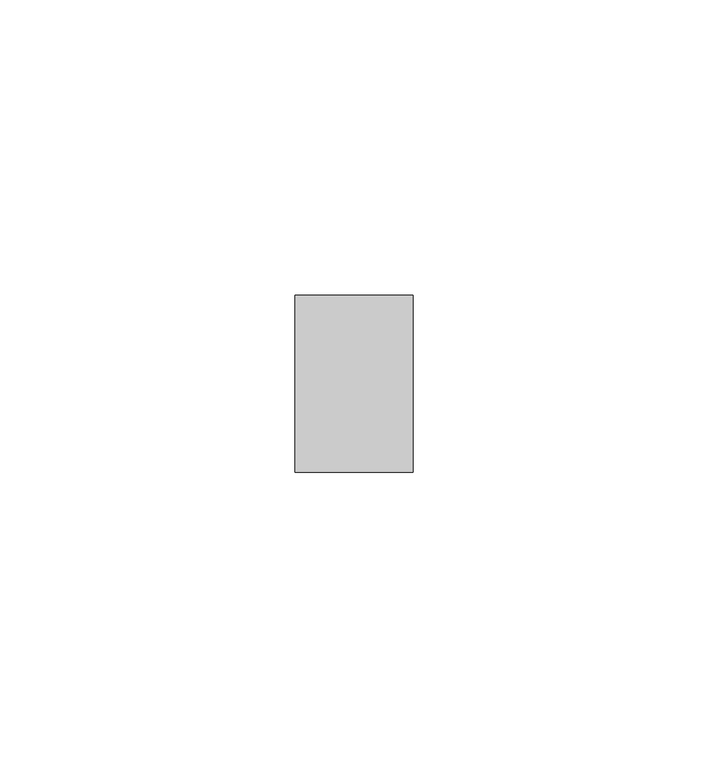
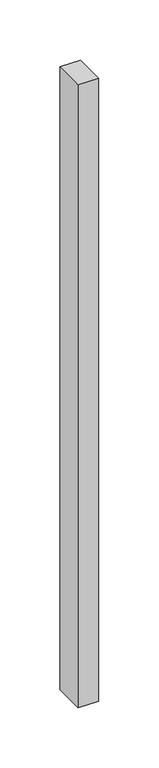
"""IFC4 building model written with IfcOpenShell, lengths in millimetres: member geometry, Прямоугольный импост : Квадрат 10 мм - Зазор между навесными плитами."""

import ifcopenshell
import ifcopenshell.guid

model = None  # the IFC model being written
_history = None  # IfcOwnerHistory: only IFC2X3 demands one
_inside = {}  # id of a spatial element -> (the spatial element, [elements in it])
_under = {}  # id of a project, library or spatial element -> (it, [spatial elements below it])
_declared = {}  # id of a project -> (the project, [libraries it declares])
_typed = {}  # id of a type object -> (the type object, [elements of that type])
_made_of = {}  # id of a material, layer set ... -> (it, [elements and type objects made of it])


def new_model(schema):
    """Start an empty IFC model of exactly this schema.

    Asked for "IFC4X3", IfcOpenShell would pick the latest addendum, in which some entities
    have other attributes; the version numbers below select the first issue.
    IFC2X3 requires an IfcOwnerHistory on every rooted entity: one is made here for all.
    """
    global model, _history
    if schema == "IFC4X3":
        model = ifcopenshell.file(schema_version=(4, 3, 0, 0))
    else:
        model = ifcopenshell.file(schema=schema)
    _inside.clear()
    _under.clear()
    _declared.clear()
    _typed.clear()
    _made_of.clear()
    _history = None
    if model.schema == "IFC2X3":
        org = make("IfcOrganization", Name="unknown")
        user = make(
            "IfcPersonAndOrganization",
            ThePerson=make("IfcPerson", FamilyName="unknown"),
            TheOrganization=org,
        )
        app = make(
            "IfcApplication",
            ApplicationDeveloper=org,
            Version="unknown",
            ApplicationFullName="unknown",
            ApplicationIdentifier="unknown",
        )
        _history = make(
            "IfcOwnerHistory",
            OwningUser=user,
            OwningApplication=app,
            ChangeAction="ADDED",
            CreationDate=0,
        )
    return model


def make(cls, **values):
    """One entity of the class cls with the attributes given. An attribute that is None is left unset."""
    return model.create_entity(
        cls, **{name: value for name, value in values.items() if value is not None}
    )


def rooted(cls, **values):
    """An entity with a GlobalId (a new one), such as an element, a storey or a relation."""
    return make(cls, GlobalId=ifcopenshell.guid.new(), OwnerHistory=_history, **values)


def si_unit(unit_type, name, prefix=None):
    """IfcSIUnit, for example si_unit("LENGTHUNIT", "METRE", prefix="MILLI")."""
    return make("IfcSIUnit", UnitType=unit_type, Prefix=prefix, Name=name)


def assignment(units):
    """IfcUnitAssignment: the units of a project."""
    return None if units is None else make("IfcUnitAssignment", Units=units)


def point(xyz):
    """IfcCartesianPoint."""
    return None if xyz is None else make("IfcCartesianPoint", Coordinates=xyz)


def direction(xyz):
    """IfcDirection."""
    return None if xyz is None else make("IfcDirection", DirectionRatios=xyz)


def frame(location, z_axis=None, x_axis=None):
    """IfcAxis2Placement3D, a coordinate frame: its origin and axes. An axis left out is left unset."""
    return make(
        "IfcAxis2Placement3D",
        Location=point(location),
        Axis=direction(z_axis),
        RefDirection=direction(x_axis),
    )


def origin():
    """The frame at (0, 0, 0) with its axes left unset."""
    return frame((0.0, 0.0, 0.0))


def place(relative_to, where):
    """IfcLocalPlacement: puts the frame where relative to a parent placement (None: the world)."""
    return make(
        "IfcLocalPlacement", PlacementRelTo=relative_to, RelativePlacement=where
    )


def context(
    kind, dimensions, precision=None, world=None, true_north=None, identifier=None
):
    """IfcGeometricRepresentationContext, for example the 3D "Model" context."""
    return make(
        "IfcGeometricRepresentationContext",
        ContextIdentifier=identifier,
        ContextType=kind,
        CoordinateSpaceDimension=dimensions,
        Precision=precision,
        WorldCoordinateSystem=world,
        TrueNorth=true_north,
    )


def project(units=None, contexts=None):
    """IfcProject with its units and contexts."""
    return rooted(
        "IfcProject",
        Name="project",
        RepresentationContexts=contexts,
        UnitsInContext=assignment(units),
    )


def spatial(cls, under=None, at=None, **own):
    """A site, building, storey or space (cls), placed at a placement, below another one or the project."""
    s = rooted(cls, ObjectPlacement=at, **own)
    if under is not None:
        _under.setdefault(under.id(), (under, []))[1].append(s)
    return s


def polyline(points):
    """IfcPolyline through the points."""
    return make("IfcPolyline", Points=[point(p) for p in points])


def outline(outer, holes=None, kind="AREA"):
    """IfcArbitraryClosedProfileDef: a profile drawn as a closed curve; with holes, ...WithVoids."""
    if holes is None:
        return make("IfcArbitraryClosedProfileDef", ProfileType=kind, OuterCurve=outer)
    return make(
        "IfcArbitraryProfileDefWithVoids",
        ProfileType=kind,
        OuterCurve=outer,
        InnerCurves=holes,
    )


def extrude(swept, where, along, depth):
    """IfcExtrudedAreaSolid: the profile swept, set in the frame where, extruded along a direction by depth."""
    return make(
        "IfcExtrudedAreaSolid",
        SweptArea=swept,
        Position=where,
        ExtrudedDirection=direction(along),
        Depth=depth,
    )


def shape(context_of_items, identifier, shape_type, items):
    """IfcShapeRepresentation: the items that make up one representation, for example the "Body"."""
    return make(
        "IfcShapeRepresentation",
        ContextOfItems=context_of_items,
        RepresentationIdentifier=identifier,
        RepresentationType=shape_type,
        Items=items,
    )


def source(mapping_origin, context_of_items, identifier, shape_type, items):
    """IfcRepresentationMap: a shape defined once, which mapped items show again and again."""
    return make(
        "IfcRepresentationMap",
        MappingOrigin=mapping_origin,
        MappedRepresentation=shape(context_of_items, identifier, shape_type, items),
    )


def transform(
    local_origin,
    x_axis=None,
    y_axis=None,
    z_axis=None,
    scale=None,
    scale2=None,
    scale3=None,
    uniform=True,
):
    """IfcCartesianTransformationOperator3D, or its non-uniform kind. x_axis, y_axis, z_axis: its Axis1, 2, 3."""
    if uniform:
        return make(
            "IfcCartesianTransformationOperator3D",
            Axis1=direction(x_axis),
            Axis2=direction(y_axis),
            LocalOrigin=point(local_origin),
            Scale=scale,
            Axis3=direction(z_axis),
        )
    return make(
        "IfcCartesianTransformationOperator3DnonUniform",
        Axis1=direction(x_axis),
        Axis2=direction(y_axis),
        LocalOrigin=point(local_origin),
        Scale=scale,
        Axis3=direction(z_axis),
        Scale2=scale2,
        Scale3=scale3,
    )


def mapped(mapping_source, mapping_target):
    """IfcMappedItem: shows the shape of a source again, moved by a transform."""
    return make(
        "IfcMappedItem", MappingSource=mapping_source, MappingTarget=mapping_target
    )


def made_of(thing, what):
    """Note that an element or type object is made of a material, layer set ...; save() writes the relation."""
    if what is not None:
        _made_of.setdefault(what.id(), (what, []))[1].append(thing)
    return thing


def element(
    cls,
    number,
    at=None,
    inside=None,
    cuts=None,
    type_object=None,
    material=None,
    context=None,
    identifier="Body",
    shape_type=None,
    held_by="IfcProductDefinitionShape",
    body=None,
    shapes=None,
    **own,
):
    """One element of the class cls, such as IfcWall. Its Tag is "e" and its number.

    at: its placement. inside: the storey or other place that contains it. cuts: it is an
    opening in that element (IfcRelVoidsElement). A single representation is given by context,
    identifier, shape_type and body (its items); several are given by shapes. held_by: the class
    of the entity that holds the representations. save() writes the other relations.
    """
    e = rooted(cls, Tag="e%d" % number, ObjectPlacement=at, **own)
    if body is not None:
        shapes = [shape(context, identifier, shape_type, body)]
    if shapes is not None:
        e.Representation = make(held_by, Representations=shapes)
    if inside is not None:
        _inside.setdefault(inside.id(), (inside, []))[1].append(e)
    if cuts is not None:
        rooted(
            "IfcRelVoidsElement", RelatingBuildingElement=cuts, RelatedOpeningElement=e
        )
    if type_object is not None:
        _typed.setdefault(type_object.id(), (type_object, []))[1].append(e)
    return made_of(e, material)


def aggregate(whole, parts):
    """IfcRelAggregates: a whole, such as a stair, and the parts it consists of."""
    return rooted("IfcRelAggregates", RelatingObject=whole, RelatedObjects=parts)


def save(model, path):
    """Write the relations noted so far, then the file.

    IfcRelAggregates (storeys below a building ...), IfcRelContainedInSpatialStructure (elements
    in a storey), IfcRelDefinesByType, IfcRelAssociatesMaterial and IfcRelDeclares: one each for
    every whole, place, type object, material and project.
    """
    for whole, parts in _under.values():
        aggregate(whole, parts)
    for where, things in _inside.values():
        rooted(
            "IfcRelContainedInSpatialStructure",
            RelatedElements=things,
            RelatingStructure=where,
        )
    for kind, things in _typed.values():
        rooted("IfcRelDefinesByType", RelatedObjects=things, RelatingType=kind)
    for what, things in _made_of.values():
        rooted("IfcRelAssociatesMaterial", RelatedObjects=things, RelatingMaterial=what)
    for by, libraries in _declared.values():
        rooted("IfcRelDeclares", RelatingContext=by, RelatedDefinitions=libraries)
    model.write(path)


def member_eba618d0(model_context):
    return source(origin(), model_context, "Body", "SweptSolid", [
        extrude(outline(polyline([(0.0, 15.0), (0.0, -15.0), (-20.0, -15.0), (-20.0, 15.0), (0.0, 15.0)])), frame((0.0, 0.0, -632.7229298), z_axis=(0.0, 0.0, 1.0), x_axis=(1.0, 0.0, 0.0)), (0.0, 0.0, 1.0), 632.7229298),
    ])


if __name__ == "__main__":
    model = new_model("IFC4")
    model_context = context("Model", 3, world=origin())
    ifc_project = project(units=[si_unit("LENGTHUNIT", "METRE", prefix="MILLI")], contexts=[model_context])
    site = spatial("IfcSite", under=ifc_project)
    building = spatial("IfcBuilding", under=site)
    placement = place(None, origin())
    member_shape = member_eba618d0(model_context)
    element("IfcMember", 1, ObjectType="Прямоугольный импост : Квадрат 10 мм - Зазор между навесными плитами", at=placement, inside=building, context=model_context, shape_type="MappedRepresentation", body=[
        mapped(member_shape, transform((0.0, 0.0, 0.0), x_axis=(1.0, 0.0, 0.0), y_axis=(0.0, 1.0, 0.0), z_axis=(0.0, 0.0, 1.0))),
    ])
    save(model, "model.ifc")
